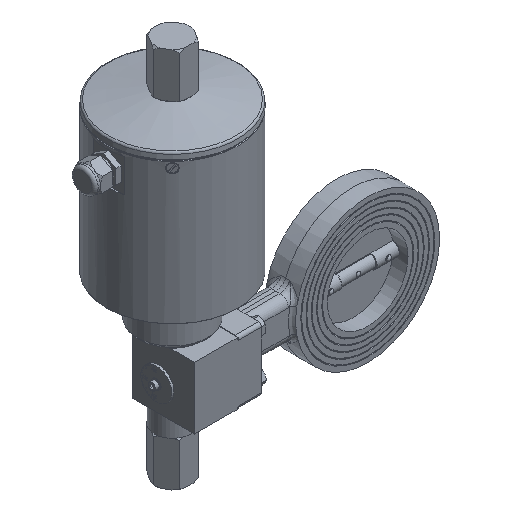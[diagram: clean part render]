
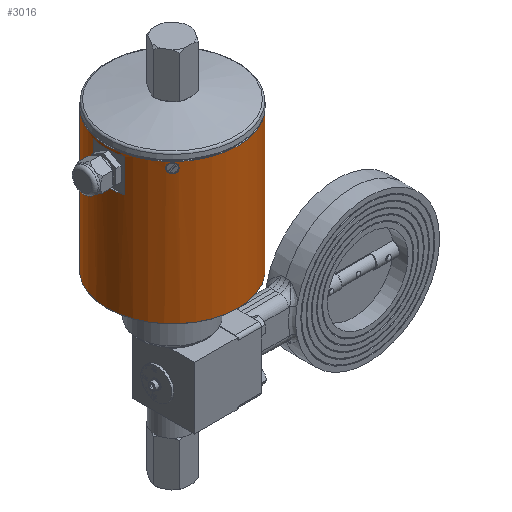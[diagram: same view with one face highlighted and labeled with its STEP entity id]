
A CAD part, isometric view. The second image highlights one B-rep face of the part: STEP entity #3016.
In plain terms, the highlighted cylindrical face has radius 63.5 mm (diameter 127 mm), a full revolution.
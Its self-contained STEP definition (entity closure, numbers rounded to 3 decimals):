
#2846=CARTESIAN_POINT('',(-63.5,42.5,75.5));
#2847=VERTEX_POINT('',#2846);
#2848=CARTESIAN_POINT('',(0.,42.5,75.5));
#2849=DIRECTION('',(0.0,0.0,-1.0));
#2850=DIRECTION('',(1.0,0.0,0.0));
#2851=AXIS2_PLACEMENT_3D('',#2848,#2849,#2850);
#2852=CIRCLE('',#2851,63.5);
#2853=EDGE_CURVE('',#2847,#2847,#2852,.T.);
#2881=CARTESIAN_POINT('',(0.,42.5,75.));
#2882=DIRECTION('',(0.,0.,1.0));
#2883=DIRECTION('',(1.0,0.0,0.0));
#2884=AXIS2_PLACEMENT_3D('',#2881,#2882,#2883);
#2885=CYLINDRICAL_SURFACE('',#2884,63.5);
#2886=ORIENTED_EDGE('',*,*,#2853,.F.);
#2887=EDGE_LOOP('',(#2886));
#2888=FACE_OUTER_BOUND('',#2887,.T.);
#2889=CARTESIAN_POINT('',(-44.901,-2.401,201.25));
#2890=VERTEX_POINT('',#2889);
#2891=CARTESIAN_POINT('',(-44.901,-2.401,210.75));
#2892=VERTEX_POINT('',#2891);
#2893=CARTESIAN_POINT('',(-44.901,-2.401,201.25));
#2894=CARTESIAN_POINT('',(-45.27,-2.032,201.25));
#2895=CARTESIAN_POINT('',(-45.655,-1.638,201.347));
#2896=CARTESIAN_POINT('',(-46.01,-1.265,201.544));
#2897=CARTESIAN_POINT('',(-46.371,-0.885,201.745));
#2898=CARTESIAN_POINT('',(-46.702,-0.527,202.048));
#2899=CARTESIAN_POINT('',(-46.974,-0.229,202.411));
#2900=CARTESIAN_POINT('',(-47.116,-0.073,202.6));
#2901=CARTESIAN_POINT('',(-47.241,0.066,202.801));
#2902=CARTESIAN_POINT('',(-47.357,0.197,203.026));
#2903=CARTESIAN_POINT('',(-47.584,0.451,203.464));
#2904=CARTESIAN_POINT('',(-47.765,0.657,203.984));
#2905=CARTESIAN_POINT('',(-47.878,0.787,204.531));
#2906=CARTESIAN_POINT('',(-47.977,0.901,205.012));
#2907=CARTESIAN_POINT('',(-48.025,0.957,205.514));
#2908=CARTESIAN_POINT('',(-48.026,0.957,205.99));
#2909=CARTESIAN_POINT('',(-48.026,0.958,206.198));
#2910=CARTESIAN_POINT('',(-48.018,0.948,206.411));
#2911=CARTESIAN_POINT('',(-47.999,0.927,206.625));
#2912=CARTESIAN_POINT('',(-47.953,0.873,207.178));
#2913=CARTESIAN_POINT('',(-47.841,0.744,207.737));
#2914=CARTESIAN_POINT('',(-47.668,0.548,208.241));
#2915=CARTESIAN_POINT('',(-47.539,0.401,208.619));
#2916=CARTESIAN_POINT('',(-47.376,0.218,208.966));
#2917=CARTESIAN_POINT('',(-47.195,0.016,209.263));
#2918=CARTESIAN_POINT('',(-47.095,-0.095,209.427));
#2919=CARTESIAN_POINT('',(-46.985,-0.216,209.581));
#2920=CARTESIAN_POINT('',(-46.866,-0.347,209.726));
#2921=CARTESIAN_POINT('',(-46.579,-0.661,210.075));
#2922=CARTESIAN_POINT('',(-46.236,-1.029,210.355));
#2923=CARTESIAN_POINT('',(-45.868,-1.414,210.529));
#2924=CARTESIAN_POINT('',(-45.553,-1.742,210.678));
#2925=CARTESIAN_POINT('',(-45.222,-2.081,210.75));
#2926=CARTESIAN_POINT('',(-44.901,-2.401,210.75));
#2927=B_SPLINE_CURVE_WITH_KNOTS('',3,(#2893,#2894,#2895,#2896,#2897,#2898,#2899,#2900,#2901,#2902,#2903,#2904,#2905,#2906,#2907,#2908,#2909,#2910,#2911,#2912,#2913,#2914,#2915,#2916,#2917,#2918,#2919,#2920,#2921,#2922,#2923,#2924,#2925,#2926),.UNSPECIFIED.,.F.,.U.,(4,3,3,3,3,3,3,3,3,3,3,4),(0.704,0.86,1.019,1.102,1.264,1.406,1.468,1.629,1.749,1.816,1.975,2.111),.UNSPECIFIED.);
#2928=EDGE_CURVE('',#2890,#2892,#2927,.T.);
#2929=ORIENTED_EDGE('',*,*,#2928,.T.);
#2930=CARTESIAN_POINT('',(-44.901,-2.401,210.75));
#2931=CARTESIAN_POINT('',(-44.531,-2.772,210.75));
#2932=CARTESIAN_POINT('',(-44.135,-3.158,210.652));
#2933=CARTESIAN_POINT('',(-43.76,-3.514,210.453));
#2934=CARTESIAN_POINT('',(-43.379,-3.877,210.251));
#2935=CARTESIAN_POINT('',(-43.02,-4.209,209.945));
#2936=CARTESIAN_POINT('',(-42.72,-4.481,209.579));
#2937=CARTESIAN_POINT('',(-42.562,-4.625,209.386));
#2938=CARTESIAN_POINT('',(-42.422,-4.751,209.182));
#2939=CARTESIAN_POINT('',(-42.291,-4.868,208.952));
#2940=CARTESIAN_POINT('',(-42.04,-5.092,208.514));
#2941=CARTESIAN_POINT('',(-41.836,-5.27,207.996));
#2942=CARTESIAN_POINT('',(-41.709,-5.382,207.451));
#2943=CARTESIAN_POINT('',(-41.637,-5.444,207.145));
#2944=CARTESIAN_POINT('',(-41.589,-5.486,206.831));
#2945=CARTESIAN_POINT('',(-41.563,-5.508,206.521));
#2946=CARTESIAN_POINT('',(-41.546,-5.522,206.31));
#2947=CARTESIAN_POINT('',(-41.54,-5.528,206.104));
#2948=CARTESIAN_POINT('',(-41.543,-5.525,205.898));
#2949=CARTESIAN_POINT('',(-41.552,-5.518,205.358));
#2950=CARTESIAN_POINT('',(-41.632,-5.449,204.787));
#2951=CARTESIAN_POINT('',(-41.786,-5.314,204.253));
#2952=CARTESIAN_POINT('',(-41.939,-5.18,203.721));
#2953=CARTESIAN_POINT('',(-42.166,-4.981,203.226));
#2954=CARTESIAN_POINT('',(-42.431,-4.743,202.818));
#2955=CARTESIAN_POINT('',(-42.535,-4.649,202.657));
#2956=CARTESIAN_POINT('',(-42.646,-4.549,202.507));
#2957=CARTESIAN_POINT('',(-42.767,-4.439,202.365));
#2958=CARTESIAN_POINT('',(-43.07,-4.163,202.008));
#2959=CARTESIAN_POINT('',(-43.429,-3.829,201.713));
#2960=CARTESIAN_POINT('',(-43.809,-3.468,201.521));
#2961=CARTESIAN_POINT('',(-44.169,-3.124,201.339));
#2962=CARTESIAN_POINT('',(-44.547,-2.756,201.25));
#2963=CARTESIAN_POINT('',(-44.901,-2.401,201.25));
#2964=B_SPLINE_CURVE_WITH_KNOTS('',3,(#2930,#2931,#2932,#2933,#2934,#2935,#2936,#2937,#2938,#2939,#2940,#2941,#2942,#2943,#2944,#2945,#2946,#2947,#2948,#2949,#2950,#2951,#2952,#2953,#2954,#2955,#2956,#2957,#2958,#2959,#2960,#2961,#2962,#2963),.UNSPECIFIED.,.F.,.U.,(4,3,3,3,3,3,3,3,3,3,3,4),(2.111,2.268,2.428,2.512,2.673,2.763,2.824,2.985,3.146,3.209,3.367,3.518),.UNSPECIFIED.);
#2965=EDGE_CURVE('',#2892,#2890,#2964,.T.);
#2966=ORIENTED_EDGE('',*,*,#2965,.T.);
#2967=EDGE_LOOP('',(#2929,#2966));
#2968=FACE_BOUND('',#2967,.T.);
#2969=CARTESIAN_POINT('',(-61.703,57.5,209.));
#2970=VERTEX_POINT('',#2969);
#2971=CARTESIAN_POINT('',(-61.703,27.5,209.));
#2972=VERTEX_POINT('',#2971);
#2973=CARTESIAN_POINT('',(0.,42.5,209.));
#2974=DIRECTION('',(0.0,0.0,1.0));
#2975=DIRECTION('',(1.0,0.0,0.0));
#2976=AXIS2_PLACEMENT_3D('',#2973,#2974,#2975);
#2977=CIRCLE('',#2976,63.5);
#2978=EDGE_CURVE('',#2970,#2972,#2977,.T.);
#2979=ORIENTED_EDGE('',*,*,#2978,.T.);
#2980=CARTESIAN_POINT('',(-61.703,27.5,177.));
#2981=VERTEX_POINT('',#2980);
#2982=CARTESIAN_POINT('',(-61.703,27.5,209.));
#2983=DIRECTION('',(0.0,0.0,-1.0));
#2984=VECTOR('',#2983,32.0);
#2985=LINE('',#2982,#2984);
#2986=EDGE_CURVE('',#2972,#2981,#2985,.T.);
#2987=ORIENTED_EDGE('',*,*,#2986,.T.);
#2988=CARTESIAN_POINT('',(-61.703,57.5,177.));
#2989=VERTEX_POINT('',#2988);
#2990=CARTESIAN_POINT('',(0.,42.5,177.));
#2991=DIRECTION('',(0.0,0.0,-1.0));
#2992=DIRECTION('',(1.0,0.0,0.0));
#2993=AXIS2_PLACEMENT_3D('',#2990,#2991,#2992);
#2994=CIRCLE('',#2993,63.5);
#2995=EDGE_CURVE('',#2981,#2989,#2994,.T.);
#2996=ORIENTED_EDGE('',*,*,#2995,.T.);
#2997=CARTESIAN_POINT('',(-61.703,57.5,177.));
#2998=DIRECTION('',(0.0,0.0,1.0));
#2999=VECTOR('',#2998,32.0);
#3000=LINE('',#2997,#2999);
#3001=EDGE_CURVE('',#2989,#2970,#3000,.T.);
#3002=ORIENTED_EDGE('',*,*,#3001,.T.);
#3003=EDGE_LOOP('',(#2979,#2987,#2996,#3002));
#3004=FACE_BOUND('',#3003,.T.);
#3005=CARTESIAN_POINT('',(-63.5,42.5,211.5));
#3006=VERTEX_POINT('',#3005);
#3007=CARTESIAN_POINT('',(0.,42.5,211.5));
#3008=DIRECTION('',(0.0,0.0,1.0));
#3009=DIRECTION('',(1.0,0.0,0.0));
#3010=AXIS2_PLACEMENT_3D('',#3007,#3008,#3009);
#3011=CIRCLE('',#3010,63.5);
#3012=EDGE_CURVE('',#3006,#3006,#3011,.T.);
#3013=ORIENTED_EDGE('',*,*,#3012,.F.);
#3014=EDGE_LOOP('',(#3013));
#3015=FACE_BOUND('',#3014,.T.);
#3016=ADVANCED_FACE('',(#2888,#2968,#3004,#3015),#2885,.T.);
